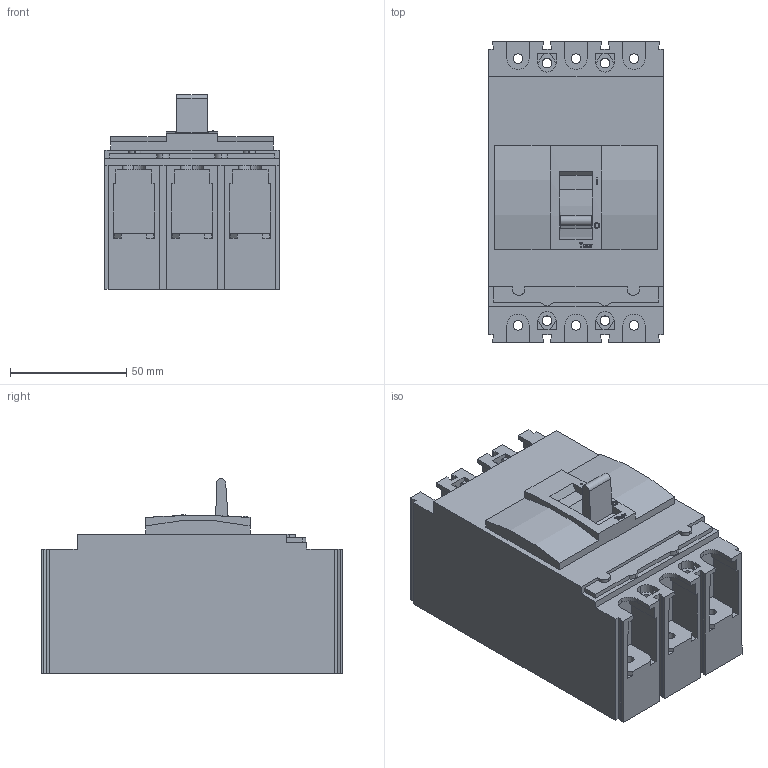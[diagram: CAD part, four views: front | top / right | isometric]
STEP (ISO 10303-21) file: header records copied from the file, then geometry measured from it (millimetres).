
FILE_DESCRIPTION (( 'STEP AP214' ), '1' );
FILE_NAME ('OptiMat E100.STEP', '2026-06-11T06:47:49', ( '' ), ( '' ), 'SwSTEP 2.0', 'SolidWorks 2018', '' );
FILE_SCHEMA (( 'AUTOMOTIVE_DESIGN' ));
Length unit declared in the file: millimetre
Products named in the file (2): OptiMat E100 äëÿ ñàéòà; OptiMat E100
Assembly tree (1 placements, depth 2):
  OptiMat E100
    OptiMat E100 äëÿ ñàéòà
Bounding box: 75 x 130 x 83.87 mm (x, y, z)
Volume: 518257.6 mm3; surface area: 64964.3 mm2
Topology: 1 solids, 1 shells, 374 faces, 1027 edges, 682 vertices
Faces by surface type: plane 284, cylinder 72, bspline 18
Entity records: 12749 total; most frequent: CARTESIAN_POINT 3139, ORIENTED_EDGE 2054, DIRECTION 1841, EDGE_CURVE 1027, LINE 833, VECTOR 833, VERTEX_POINT 682, AXIS2_PLACEMENT_3D 504
